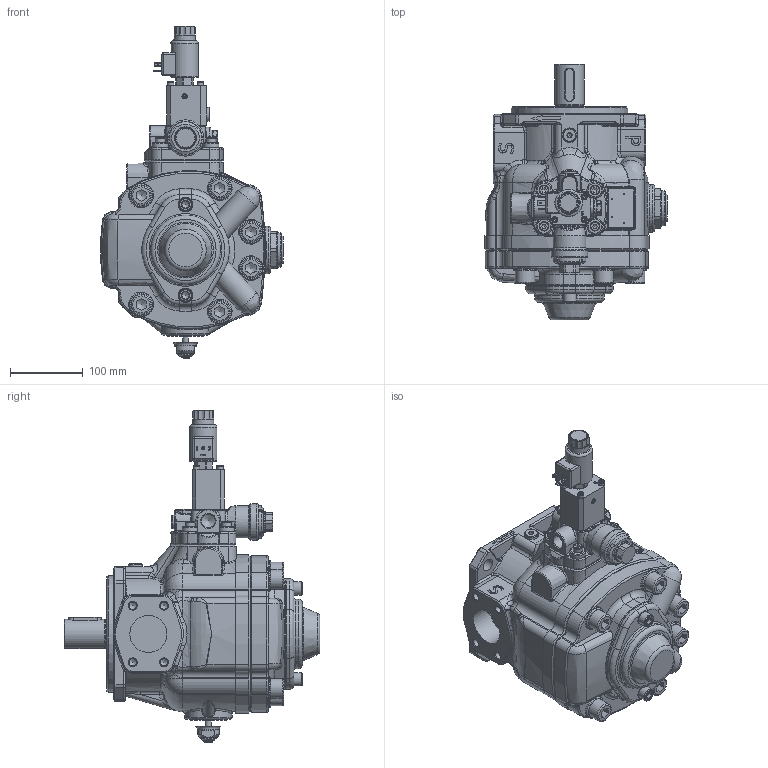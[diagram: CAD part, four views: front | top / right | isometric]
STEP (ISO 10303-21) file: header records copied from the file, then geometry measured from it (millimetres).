
FILE_DESCRIPTION(/* description */ (''),/* implementation_level */ '2;1');
FILE_NAME(/* name */ 'W:\Tecnico\Archivio\Berarma\Dimensioni Pompe\3D Export\Montaggio 3D semplificato\PLP-PHP 3\PHP 3 -A PCS005.stp',/* time_stamp */ '2018-10-10T08:48:27+02:00',/* author */ ('marcop'),/* organization */ (''),/* preprocessor_version */ 'ST-DEVELOPER v17',/* originating_system */ 'Autodesk Inventor 2018',/* authorisation */ '');
FILE_SCHEMA (('AUTOMOTIVE_DESIGN { 1 0 10303 214 3 1 1 }'));
Length unit declared in the file: millimetre
Products named in the file (1): PLP-PHP 3_Shrinkwrap_1
Bounding box: 251.18 x 352 x 456.65 mm (x, y, z)
Volume: 7042621 mm3; surface area: 588254.2 mm2
Topology: 2 solids, 2 shells, 2255 faces, 5757 edges, 3550 vertices
Faces by surface type: plane 787, cylinder 507, bspline 458, torus 245, cone 210, sphere 48
Full cylindrical faces by diameter (mm): 1.6 x3, 1.7 x4, 3 x2, 3.15 x1, 3.242 x1, 4.3 x1, 8 x1, 8.376 x4, 8.5 x4, 10.106 x4, 12 x3, 13 x4, 14 x1, 15.5 x1, 16.789 x1, 17.805 x1, 17.84 x1, 18 x6, 18.631 x1, 18.999 x2, 19 x5, 19.2 x1, 20 x4, 22 x1, 22.857 x1, 23 x1, 25 x1, 27 x6, 28 x1, 29.21 x1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
Entity records: 85101 total; most frequent: CARTESIAN_POINT 31023, ORIENTED_EDGE 11340, DIRECTION 10207, EDGE_CURVE 5670, AXIS2_PLACEMENT_3D 3982, VERTEX_POINT 3550, EDGE_LOOP 2402, STYLED_ITEM 2257
